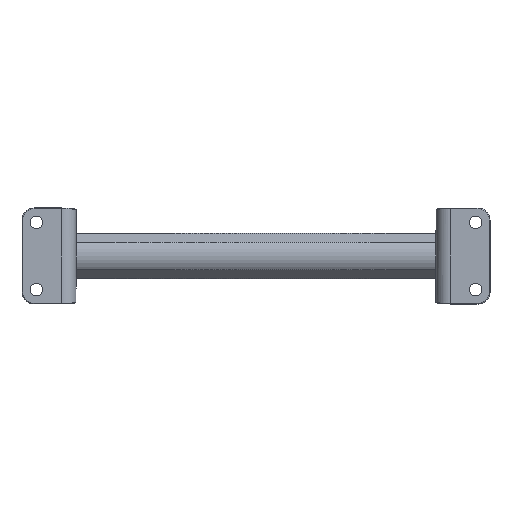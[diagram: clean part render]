
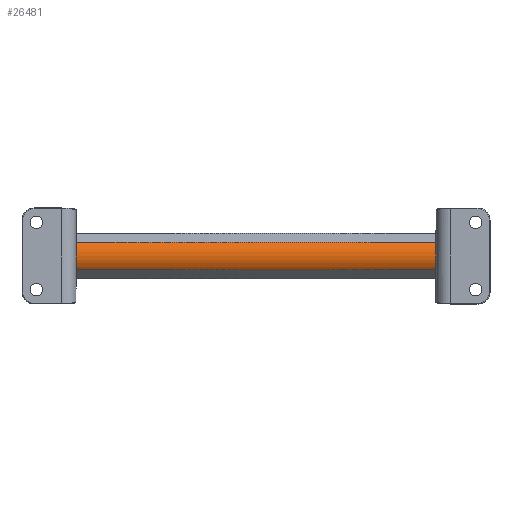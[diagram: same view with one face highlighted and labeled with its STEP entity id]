
A CAD part, front view. The second image highlights one B-rep face of the part: STEP entity #26481.
In plain terms, the highlighted cylindrical face has radius 19 mm (diameter 38 mm), a partial arc.
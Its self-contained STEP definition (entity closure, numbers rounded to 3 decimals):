
#1932 = EDGE_CURVE ( 'NONE', #4064, #7715, #14474, .T. ) ;
#2226 = DIRECTION ( 'NONE',  ( 1., 0., 0. ) ) ;
#2662 = CIRCLE ( 'NONE', #50937, 19. ) ;
#4064 = VERTEX_POINT ( 'NONE', #65142 ) ;
#6390 = CARTESIAN_POINT ( 'NONE',  ( 150., -15.158, -11.456 ) ) ;
#7715 = VERTEX_POINT ( 'NONE', #42866 ) ;
#9547 = CARTESIAN_POINT ( 'NONE',  ( -150., 0., 0. ) ) ;
#10151 = EDGE_LOOP ( 'NONE', ( #39204, #51646, #25441, #80456 ) ) ;
#10431 = DIRECTION ( 'NONE',  ( -1., 0., 0. ) ) ;
#10494 = DIRECTION ( 'NONE',  ( -1., 0., 0. ) ) ;
#12246 = EDGE_CURVE ( 'NONE', #37349, #75682, #2662, .T. ) ;
#14474 = CIRCLE ( 'NONE', #62824, 19. ) ;
#17292 = CARTESIAN_POINT ( 'NONE',  ( 150., 0., 0. ) ) ;
#18619 = CARTESIAN_POINT ( 'NONE',  ( 150., 0., 0. ) ) ;
#19045 = EDGE_CURVE ( 'NONE', #37349, #4064, #63629, .T. ) ;
#25441 = ORIENTED_EDGE ( 'NONE', *, *, #12246, .F. ) ;
#26481 = ADVANCED_FACE ( 'NONE', ( #44089 ), #82562, .T. ) ;
#29880 = CARTESIAN_POINT ( 'NONE',  ( 150., -15.158, 11.456 ) ) ;
#36737 = DIRECTION ( 'NONE',  ( 0., 0., 1. ) ) ;
#37349 = VERTEX_POINT ( 'NONE', #54413 ) ;
#39204 = ORIENTED_EDGE ( 'NONE', *, *, #1932, .T. ) ;
#40075 = LINE ( 'NONE', #6390, #81349 ) ;
#42866 = CARTESIAN_POINT ( 'NONE',  ( -150., -15.158, -11.456 ) ) ;
#44089 = FACE_OUTER_BOUND ( 'NONE', #10151, .T. ) ;
#48465 = DIRECTION ( 'NONE',  ( 0., 0., -1. ) ) ;
#50937 = AXIS2_PLACEMENT_3D ( 'NONE', #18619, #83496, #70516 ) ;
#51646 = ORIENTED_EDGE ( 'NONE', *, *, #52442, .T. ) ;
#52442 = EDGE_CURVE ( 'NONE', #7715, #75682, #40075, .T. ) ;
#54413 = CARTESIAN_POINT ( 'NONE',  ( 150., -15.158, 11.456 ) ) ;
#62824 = AXIS2_PLACEMENT_3D ( 'NONE', #9547, #2226, #48465 ) ;
#63629 = LINE ( 'NONE', #29880, #70544 ) ;
#65142 = CARTESIAN_POINT ( 'NONE',  ( -150., -15.158, 11.456 ) ) ;
#70516 = DIRECTION ( 'NONE',  ( 0., 0., -1. ) ) ;
#70544 = VECTOR ( 'NONE', #10494, 1000. ) ;
#70661 = CARTESIAN_POINT ( 'NONE',  ( 150., -15.158, -11.456 ) ) ;
#75002 = AXIS2_PLACEMENT_3D ( 'NONE', #17292, #10431, #36737 ) ;
#75682 = VERTEX_POINT ( 'NONE', #70661 ) ;
#78151 = DIRECTION ( 'NONE',  ( 1., 0., 0. ) ) ;
#80456 = ORIENTED_EDGE ( 'NONE', *, *, #19045, .T. ) ;
#81349 = VECTOR ( 'NONE', #78151, 1000. ) ;
#82562 = CYLINDRICAL_SURFACE ( 'NONE', #75002, 19. ) ;
#83496 = DIRECTION ( 'NONE',  ( 1., 0., 0. ) ) ;
